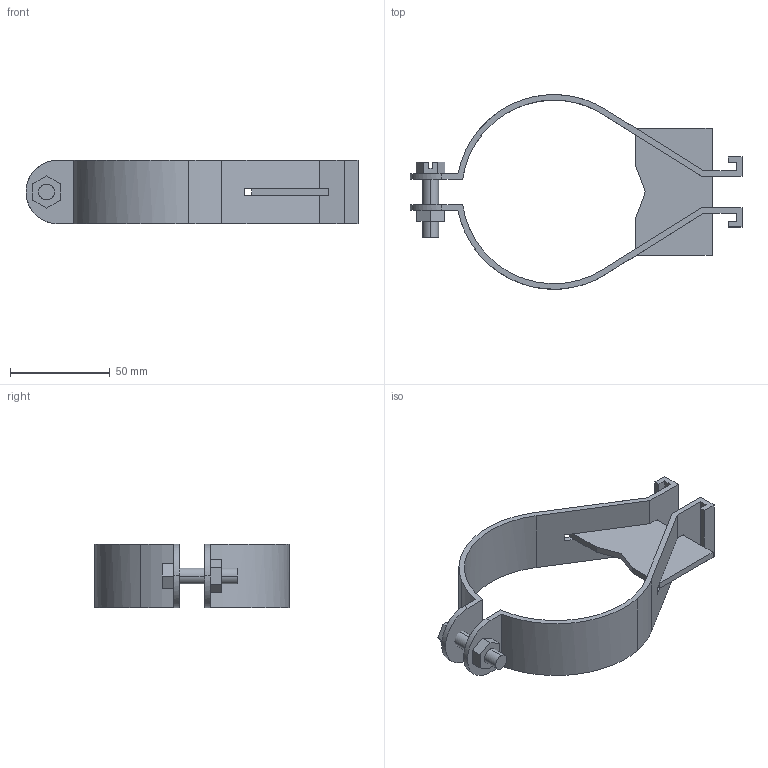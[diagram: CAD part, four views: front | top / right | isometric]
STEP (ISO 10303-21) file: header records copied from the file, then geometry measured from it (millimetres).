
FILE_DESCRIPTION(('TurboCAD Mac Pro'),'Build 980');
FILE_NAME('P1571.stp',' ',(''),(''),'ACIS Interop','IMSI','TurboCAD Mac Pro BY IMSI, INCORPORATED');
FILE_SCHEMA(('automotive_design'));
Length unit declared in the file: inch
Products named in the file (5): 1; 2; 3; 4; 5
Bounding box: 166.02 x 97.29 x 31.74 mm (x, y, z)
Volume: 45254 mm3; surface area: 35700.3 mm2
Topology: 5 solids, 5 shells, 84 faces, 231 edges, 154 vertices
Faces by surface type: plane 64, bspline 20
Entity records: 3571 total; most frequent: CARTESIAN_POINT 750, ORIENTED_EDGE 462, DIRECTION 345, EDGE_CURVE 231, LINE 191, VECTOR 191, VERTEX_POINT 154, STYLED_ITEM 89
